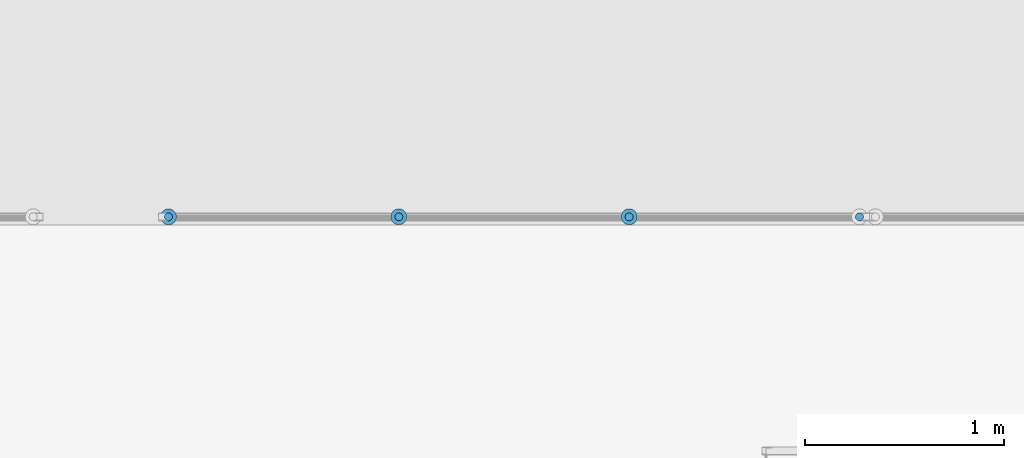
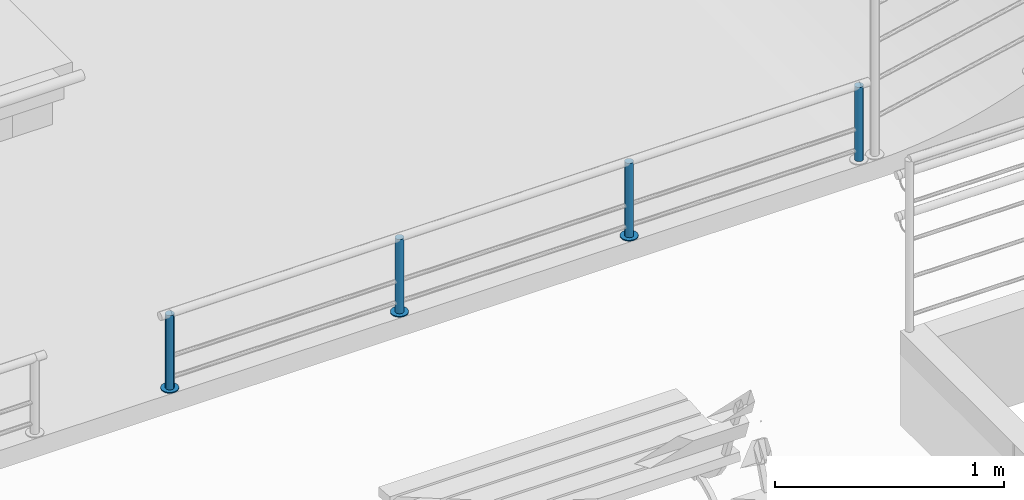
# One storey, part 111 of 237: 7 building element parts, 1 element without a shape of its own.
"""IFC2X3 building model written with IfcOpenShell, lengths in millimetres."""

from ifc_helpers import new_model, entity, si_unit, converted_unit, derived_unit, money_unit, direction, frame, origin_with_axes, place, context, subcontext, project, spatial, faceted_brep, material, type_object, element, aggregate, save


model = new_model("IFC2X3")

# Units and contexts
model_context = context("Model", 3, precision=0.01, world=origin_with_axes(), true_north=direction((0.0, 1.0)))
body_context = subcontext(model_context, "Body", "Model", "MODEL_VIEW")
ifc_project = project(units=[si_unit("LENGTHUNIT", "METRE", prefix="MILLI"), si_unit("AREAUNIT", "SQUARE_METRE"), si_unit("VOLUMEUNIT", "CUBIC_METRE"), converted_unit("PLANEANGLEUNIT", "DEGREE", entity("IfcPlaneAngleMeasure", 0.0174532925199), si_unit("PLANEANGLEUNIT", "RADIAN"), dimensions=[0, 0, 0, 0, 0, 0, 0]), money_unit("USD"), converted_unit("TIMEUNIT", "Year", entity("IfcTimeMeasure", 31556926.0), si_unit("TIMEUNIT", "SECOND"), dimensions=[0, 0, 1, 0, 0, 0, 0]), si_unit("MASSUNIT", "GRAM", prefix="KILO"), si_unit("THERMODYNAMICTEMPERATUREUNIT", "DEGREE_CELSIUS"), si_unit("LUMINOUSINTENSITYUNIT", "LUMEN"), si_unit("ENERGYUNIT", "JOULE", prefix="MEGA"), derived_unit("THERMALCONDUCTANCEUNIT", [(si_unit("POWERUNIT", "WATT"), 1), (si_unit("LENGTHUNIT", "METRE"), -1), (si_unit("THERMODYNAMICTEMPERATUREUNIT", "KELVIN"), -1)]), derived_unit("SPECIFICHEATCAPACITYUNIT", [(si_unit("ENERGYUNIT", "JOULE"), 1), (si_unit("MASSUNIT", "GRAM", prefix="KILO"), -1), (si_unit("THERMODYNAMICTEMPERATUREUNIT", "KELVIN"), -1)]), derived_unit("MASSDENSITYUNIT", [(si_unit("MASSUNIT", "GRAM", prefix="KILO"), 1), (si_unit("VOLUMEUNIT", "CUBIC_METRE"), -1)])], contexts=[model_context])

# Site, building, storey
site_placement = place(None, origin_with_axes())
site = spatial("IfcSite", under=ifc_project, at=site_placement, Name="Local", CompositionType="ELEMENT")
building_placement = place(site_placement, origin_with_axes())
building = spatial("IfcBuilding", under=site, at=building_placement, Name="Construção", CompositionType="ELEMENT")
storey_placement = place(building_placement, origin_with_axes())
storey = spatial("IfcBuildingStorey", under=building, at=storey_placement, Name="Pavimento Térreo", CompositionType="ELEMENT", Elevation=0.0)

# Railing, building element parts
railing_type = type_object("IfcRailingType", Name="Tipo de Guarda-Corpo", PredefinedType="NOTDEFINED")
railing_placement = place(storey_placement, frame((58062.4440926, 28006.4497128, -1887.10818411), z_axis=(0.0, 0.0, 1.0), x_axis=(1.0, 0.0, 0.0)))
railing = element("IfcRailing", 1, at=railing_placement, inside=storey, type_object=railing_type, Name="Guarda-Corpo - 002", PredefinedType="NOTDEFINED")
ifc_material_1 = material(Name="Aço - Inoxidável")
building_element_part_1_placement = place(railing_placement, origin_with_axes())
building_element_part_1 = element("IfcBuildingElementPart", 2, at=building_element_part_1_placement, material=ifc_material_1, Name="Aço - Inoxidável", context=body_context, shape_type="Brep", body=[
    faceted_brep([(36.5270364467, 58.7903860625, 635.0), (40.0, 58.4865411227, 635.0), (40.0, 58.4865411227, 1030.0), (36.5270364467, 58.7903860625, 1030.0), (43.4729635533, 58.7903860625, 635.0), (33.1595971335, 59.692688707, 635.0), (30.0, 61.166033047, 635.0), (27.1442478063, 63.1656522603, 635.0), (24.6791111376, 65.630788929, 635.0), (22.6794919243, 68.4865411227, 635.0), (21.2061475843, 71.6461382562, 635.0), (20.3038449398, 75.0135775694, 635.0), (20.0, 78.4865411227, 635.0), (20.3038449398, 81.9595046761, 635.0), (21.2061475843, 85.3269439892, 635.0), (22.6794919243, 88.4865411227, 635.0), (24.6791111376, 91.3422933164, 635.0), (27.1442478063, 93.8074299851, 635.0), (30.0, 95.8070491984, 635.0), (33.1595971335, 97.2803935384, 635.0), (36.5270364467, 98.182696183, 635.0), (40.0, 98.4865411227, 635.0), (43.4729635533, 98.182696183, 635.0), (46.8404028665, 97.2803935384, 635.0), (50.0, 95.8070491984, 635.0), (52.8557521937, 93.8074299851, 635.0), (55.3208888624, 91.3422933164, 635.0), (57.3205080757, 88.4865411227, 635.0), (58.7938524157, 85.3269439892, 635.0), (59.6961550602, 81.9595046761, 635.0), (60.0, 78.4865411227, 635.0), (59.6961550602, 75.0135775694, 635.0), (58.7938524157, 71.6461382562, 635.0), (57.3205080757, 68.4865411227, 635.0), (55.3208888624, 65.630788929, 635.0), (52.8557521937, 63.1656522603, 635.0), (50.0, 61.166033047, 635.0), (46.8404028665, 59.692688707, 635.0), (43.4729635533, 58.7903860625, 1030.0), (20.3038449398, 81.9595046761, 1030.0), (20.0, 78.4865411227, 1030.0), (20.3038449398, 75.0135775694, 1030.0), (21.2061475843, 71.6461382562, 1030.0), (22.6794919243, 68.4865411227, 1030.0), (24.6791111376, 65.630788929, 1030.0), (27.1442478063, 63.1656522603, 1030.0), (30.0, 61.166033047, 1030.0), (33.1595971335, 59.692688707, 1030.0), (46.8404028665, 59.692688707, 1030.0), (50.0, 61.166033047, 1030.0), (52.8557521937, 63.1656522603, 1030.0), (55.3208888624, 65.630788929, 1030.0), (57.3205080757, 68.4865411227, 1030.0), (58.7938524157, 71.6461382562, 1030.0), (59.6961550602, 75.0135775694, 1030.0), (60.0, 78.4865411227, 1030.0), (59.6961550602, 81.9595046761, 1030.0), (58.7938524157, 85.3269439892, 1030.0), (57.3205080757, 88.4865411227, 1030.0), (55.3208888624, 91.3422933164, 1030.0), (52.8557521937, 93.8074299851, 1030.0), (50.0, 95.8070491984, 1030.0), (46.8404028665, 97.2803935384, 1030.0), (43.4729635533, 98.182696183, 1030.0), (40.0, 98.4865411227, 1030.0), (36.5270364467, 98.182696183, 1030.0), (33.1595971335, 97.2803935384, 1030.0), (30.0, 95.8070491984, 1030.0), (27.1442478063, 93.8074299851, 1030.0), (24.6791111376, 91.3422933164, 1030.0), (22.6794919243, 88.4865411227, 1030.0), (21.2061475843, 85.3269439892, 1030.0)], [[[0, 1, 2, 3]], [[4, 1, 0, 5, 6, 7, 8, 9, 10, 11, 12, 13, 14, 15, 16, 17, 18, 19, 20, 21, 22, 23, 24, 25, 26, 27, 28, 29, 30, 31, 32, 33, 34, 35, 36, 37]], [[1, 4, 38, 2]], [[39, 40, 41, 42, 43, 44, 45, 46, 47, 3, 2, 38, 48, 49, 50, 51, 52, 53, 54, 55, 56, 57, 58, 59, 60, 61, 62, 63, 64, 65, 66, 67, 68, 69, 70, 71]], [[5, 0, 3, 47]], [[6, 5, 47, 46]], [[7, 6, 46, 45]], [[8, 7, 45, 44]], [[9, 8, 44, 43]], [[10, 9, 43, 42]], [[11, 10, 42, 41]], [[12, 11, 41, 40]], [[13, 12, 40, 39]], [[14, 13, 39, 71]], [[15, 14, 71, 70]], [[16, 15, 70, 69]], [[17, 16, 69, 68]], [[18, 17, 68, 67]], [[19, 18, 67, 66]], [[20, 19, 66, 65]], [[21, 20, 65, 64]], [[22, 21, 64, 63]], [[23, 22, 63, 62]], [[24, 23, 62, 61]], [[25, 24, 61, 60]], [[26, 25, 60, 59]], [[27, 26, 59, 58]], [[28, 27, 58, 57]], [[29, 28, 57, 56]], [[30, 29, 56, 55]], [[31, 30, 55, 54]], [[32, 31, 54, 53]], [[33, 32, 53, 52]], [[34, 33, 52, 51]], [[35, 34, 51, 50]], [[36, 35, 50, 49]], [[37, 36, 49, 48]], [[4, 37, 48, 38]]]),
])
ifc_material_2 = material(Name="Alumínio")
building_element_part_2_placement = place(railing_placement, origin_with_axes())
building_element_part_2 = element("IfcBuildingElementPart", 3, at=building_element_part_2_placement, material=ifc_material_2, Name="Alumínio", context=body_context, shape_type="Brep", body=[
    faceted_brep([(80.0, 78.4865411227, 630.0), (79.3923101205, 85.4324682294, 630.0), (79.3923101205, 85.4324682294, 635.0), (80.0, 78.4865411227, 635.0), (79.3923101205, 71.540614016, 630.0), (77.5877048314, 64.8057353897, 630.0), (74.6410161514, 58.4865411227, 630.0), (70.6417777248, 52.7750367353, 630.0), (65.7115043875, 47.844763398, 630.0), (60.0, 43.8455249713, 630.0), (53.680805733, 40.8988362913, 630.0), (46.9459271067, 39.0942310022, 630.0), (40.0, 38.4865411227, 630.0), (33.0540728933, 39.0942310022, 630.0), (26.319194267, 40.8988362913, 630.0), (20.0, 43.8455249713, 630.0), (14.2884956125, 47.844763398, 630.0), (9.35822227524, 52.7750367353, 630.0), (5.35898384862, 58.4865411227, 630.0), (2.41229516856, 64.8057353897, 630.0), (0.607689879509, 71.540614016, 630.0), (0.0, 78.4865411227, 630.0), (0.607689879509, 85.4324682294, 630.0), (2.41229516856, 92.1673468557, 630.0), (5.35898384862, 98.4865411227, 630.0), (9.35822227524, 104.19804551, 630.0), (14.2884956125, 109.128318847, 630.0), (20.0, 113.127557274, 630.0), (26.319194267, 116.074245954, 630.0), (33.0540728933, 117.878851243, 630.0), (40.0, 118.486541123, 630.0), (46.9459271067, 117.878851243, 630.0), (53.680805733, 116.074245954, 630.0), (60.0, 113.127557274, 630.0), (65.7115043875, 109.128318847, 630.0), (70.6417777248, 104.19804551, 630.0), (74.6410161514, 98.4865411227, 630.0), (77.5877048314, 92.1673468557, 630.0), (77.5877048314, 92.1673468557, 635.0), (74.6410161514, 98.4865411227, 635.0), (70.6417777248, 104.19804551, 635.0), (65.7115043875, 109.128318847, 635.0), (60.0, 113.127557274, 635.0), (53.680805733, 116.074245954, 635.0), (46.9459271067, 117.878851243, 635.0), (40.0, 118.486541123, 635.0), (33.0540728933, 117.878851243, 635.0), (26.319194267, 116.074245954, 635.0), (20.0, 113.127557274, 635.0), (14.2884956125, 109.128318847, 635.0), (9.35822227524, 104.19804551, 635.0), (5.35898384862, 98.4865411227, 635.0), (2.41229516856, 92.1673468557, 635.0), (0.607689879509, 85.4324682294, 635.0), (0.0, 78.4865411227, 635.0), (0.607689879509, 71.540614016, 635.0), (2.41229516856, 64.8057353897, 635.0), (5.35898384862, 58.4865411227, 635.0), (9.35822227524, 52.7750367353, 635.0), (14.2884956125, 47.844763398, 635.0), (20.0, 43.8455249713, 635.0), (26.319194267, 40.8988362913, 635.0), (33.0540728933, 39.0942310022, 635.0), (40.0, 38.4865411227, 635.0), (46.9459271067, 39.0942310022, 635.0), (53.680805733, 40.8988362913, 635.0), (60.0, 43.8455249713, 635.0), (65.7115043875, 47.844763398, 635.0), (70.6417777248, 52.7750367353, 635.0), (74.6410161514, 58.4865411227, 635.0), (77.5877048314, 64.8057353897, 635.0), (79.3923101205, 71.540614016, 635.0)], [[[0, 1, 2, 3]], [[0, 4, 5, 6, 7, 8, 9, 10, 11, 12, 13, 14, 15, 16, 17, 18, 19, 20, 21, 22, 23, 24, 25, 26, 27, 28, 29, 30, 31, 32, 33, 34, 35, 36, 37, 1]], [[1, 37, 38, 2]], [[3, 2, 38, 39, 40, 41, 42, 43, 44, 45, 46, 47, 48, 49, 50, 51, 52, 53, 54, 55, 56, 57, 58, 59, 60, 61, 62, 63, 64, 65, 66, 67, 68, 69, 70, 71]], [[4, 0, 3, 71]], [[5, 4, 71, 70]], [[6, 5, 70, 69]], [[7, 6, 69, 68]], [[8, 7, 68, 67]], [[9, 8, 67, 66]], [[10, 9, 66, 65]], [[11, 10, 65, 64]], [[12, 11, 64, 63]], [[13, 12, 63, 62]], [[14, 13, 62, 61]], [[15, 14, 61, 60]], [[16, 15, 60, 59]], [[17, 16, 59, 58]], [[18, 17, 58, 57]], [[19, 18, 57, 56]], [[20, 19, 56, 55]], [[21, 20, 55, 54]], [[22, 21, 54, 53]], [[23, 22, 53, 52]], [[24, 23, 52, 51]], [[25, 24, 51, 50]], [[26, 25, 50, 49]], [[27, 26, 49, 48]], [[28, 27, 48, 47]], [[29, 28, 47, 46]], [[30, 29, 46, 45]], [[31, 30, 45, 44]], [[32, 31, 44, 43]], [[33, 32, 43, 42]], [[34, 33, 42, 41]], [[35, 34, 41, 40]], [[36, 35, 40, 39]], [[37, 36, 39, 38]]]),
])
building_element_part_3_placement = place(railing_placement, origin_with_axes())
building_element_part_3 = element("IfcBuildingElementPart", 4, at=building_element_part_3_placement, material=ifc_material_1, Name="Aço - Inoxidável", context=body_context, shape_type="Brep", body=[
    faceted_brep([(3506.52703645, 58.7903860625, 635.0), (3510.0, 58.4865411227, 635.0), (3510.0, 58.4865411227, 1030.0), (3506.52703645, 58.7903860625, 1030.0), (3513.47296355, 58.7903860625, 635.0), (3503.15959713, 59.692688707, 635.0), (3500.0, 61.166033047, 635.0), (3497.14424781, 63.1656522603, 635.0), (3494.67911114, 65.630788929, 635.0), (3492.67949192, 68.4865411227, 635.0), (3491.20614758, 71.6461382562, 635.0), (3490.30384494, 75.0135775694, 635.0), (3490.0, 78.4865411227, 635.0), (3490.30384494, 81.9595046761, 635.0), (3491.20614758, 85.3269439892, 635.0), (3492.67949192, 88.4865411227, 635.0), (3494.67911114, 91.3422933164, 635.0), (3497.14424781, 93.8074299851, 635.0), (3500.0, 95.8070491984, 635.0), (3503.15959713, 97.2803935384, 635.0), (3506.52703645, 98.182696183, 635.0), (3510.0, 98.4865411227, 635.0), (3513.47296355, 98.182696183, 635.0), (3516.84040287, 97.2803935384, 635.0), (3520.0, 95.8070491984, 635.0), (3522.85575219, 93.8074299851, 635.0), (3525.32088886, 91.3422933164, 635.0), (3527.32050808, 88.4865411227, 635.0), (3528.79385242, 85.3269439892, 635.0), (3529.69615506, 81.9595046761, 635.0), (3530.0, 78.4865411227, 635.0), (3529.69615506, 75.0135775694, 635.0), (3528.79385242, 71.6461382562, 635.0), (3527.32050808, 68.4865411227, 635.0), (3525.32088886, 65.630788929, 635.0), (3522.85575219, 63.1656522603, 635.0), (3520.0, 61.166033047, 635.0), (3516.84040287, 59.692688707, 635.0), (3513.47296355, 58.7903860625, 1030.0), (3490.30384494, 81.9595046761, 1030.0), (3490.0, 78.4865411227, 1030.0), (3490.30384494, 75.0135775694, 1030.0), (3491.20614758, 71.6461382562, 1030.0), (3492.67949192, 68.4865411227, 1030.0), (3494.67911114, 65.630788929, 1030.0), (3497.14424781, 63.1656522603, 1030.0), (3500.0, 61.166033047, 1030.0), (3503.15959713, 59.692688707, 1030.0), (3516.84040287, 59.692688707, 1030.0), (3520.0, 61.166033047, 1030.0), (3522.85575219, 63.1656522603, 1030.0), (3525.32088886, 65.630788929, 1030.0), (3527.32050808, 68.4865411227, 1030.0), (3528.79385242, 71.6461382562, 1030.0), (3529.69615506, 75.0135775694, 1030.0), (3530.0, 78.4865411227, 1030.0), (3529.69615506, 81.9595046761, 1030.0), (3528.79385242, 85.3269439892, 1030.0), (3527.32050808, 88.4865411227, 1030.0), (3525.32088886, 91.3422933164, 1030.0), (3522.85575219, 93.8074299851, 1030.0), (3520.0, 95.8070491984, 1030.0), (3516.84040287, 97.2803935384, 1030.0), (3513.47296355, 98.182696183, 1030.0), (3510.0, 98.4865411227, 1030.0), (3506.52703645, 98.182696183, 1030.0), (3503.15959713, 97.2803935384, 1030.0), (3500.0, 95.8070491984, 1030.0), (3497.14424781, 93.8074299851, 1030.0), (3494.67911114, 91.3422933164, 1030.0), (3492.67949192, 88.4865411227, 1030.0), (3491.20614758, 85.3269439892, 1030.0)], [[[0, 1, 2, 3]], [[4, 1, 0, 5, 6, 7, 8, 9, 10, 11, 12, 13, 14, 15, 16, 17, 18, 19, 20, 21, 22, 23, 24, 25, 26, 27, 28, 29, 30, 31, 32, 33, 34, 35, 36, 37]], [[1, 4, 38, 2]], [[39, 40, 41, 42, 43, 44, 45, 46, 47, 3, 2, 38, 48, 49, 50, 51, 52, 53, 54, 55, 56, 57, 58, 59, 60, 61, 62, 63, 64, 65, 66, 67, 68, 69, 70, 71]], [[5, 0, 3, 47]], [[6, 5, 47, 46]], [[7, 6, 46, 45]], [[8, 7, 45, 44]], [[9, 8, 44, 43]], [[10, 9, 43, 42]], [[11, 10, 42, 41]], [[12, 11, 41, 40]], [[13, 12, 40, 39]], [[14, 13, 39, 71]], [[15, 14, 71, 70]], [[16, 15, 70, 69]], [[17, 16, 69, 68]], [[18, 17, 68, 67]], [[19, 18, 67, 66]], [[20, 19, 66, 65]], [[21, 20, 65, 64]], [[22, 21, 64, 63]], [[23, 22, 63, 62]], [[24, 23, 62, 61]], [[25, 24, 61, 60]], [[26, 25, 60, 59]], [[27, 26, 59, 58]], [[28, 27, 58, 57]], [[29, 28, 57, 56]], [[30, 29, 56, 55]], [[31, 30, 55, 54]], [[32, 31, 54, 53]], [[33, 32, 53, 52]], [[34, 33, 52, 51]], [[35, 34, 51, 50]], [[36, 35, 50, 49]], [[37, 36, 49, 48]], [[4, 37, 48, 38]]]),
])
building_element_part_4_placement = place(railing_placement, origin_with_axes())
building_element_part_4 = element("IfcBuildingElementPart", 5, at=building_element_part_4_placement, material=ifc_material_1, Name="Aço - Inoxidável", context=body_context, shape_type="Brep", body=[
    faceted_brep([(1193.19370311, 58.7903860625, 635.0), (1196.66666667, 58.4865411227, 635.0), (1196.66666667, 58.4865411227, 1030.0), (1193.19370311, 58.7903860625, 1030.0), (1200.13963022, 58.7903860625, 635.0), (1189.8262638, 59.692688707, 635.0), (1186.66666667, 61.166033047, 635.0), (1183.81091447, 63.1656522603, 635.0), (1181.3457778, 65.630788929, 635.0), (1179.34615859, 68.4865411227, 635.0), (1177.87281425, 71.6461382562, 635.0), (1176.97051161, 75.0135775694, 635.0), (1176.66666667, 78.4865411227, 635.0), (1176.97051161, 81.9595046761, 635.0), (1177.87281425, 85.3269439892, 635.0), (1179.34615859, 88.4865411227, 635.0), (1181.3457778, 91.3422933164, 635.0), (1183.81091447, 93.8074299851, 635.0), (1186.66666667, 95.8070491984, 635.0), (1189.8262638, 97.2803935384, 635.0), (1193.19370311, 98.182696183, 635.0), (1196.66666667, 98.4865411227, 635.0), (1200.13963022, 98.182696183, 635.0), (1203.50706953, 97.2803935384, 635.0), (1206.66666667, 95.8070491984, 635.0), (1209.52241886, 93.8074299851, 635.0), (1211.98755553, 91.3422933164, 635.0), (1213.98717474, 88.4865411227, 635.0), (1215.46051908, 85.3269439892, 635.0), (1216.36282173, 81.9595046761, 635.0), (1216.66666667, 78.4865411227, 635.0), (1216.36282173, 75.0135775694, 635.0), (1215.46051908, 71.6461382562, 635.0), (1213.98717474, 68.4865411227, 635.0), (1211.98755553, 65.630788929, 635.0), (1209.52241886, 63.1656522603, 635.0), (1206.66666667, 61.166033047, 635.0), (1203.50706953, 59.692688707, 635.0), (1200.13963022, 58.7903860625, 1030.0), (1176.97051161, 81.9595046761, 1030.0), (1176.66666667, 78.4865411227, 1030.0), (1176.97051161, 75.0135775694, 1030.0), (1177.87281425, 71.6461382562, 1030.0), (1179.34615859, 68.4865411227, 1030.0), (1181.3457778, 65.630788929, 1030.0), (1183.81091447, 63.1656522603, 1030.0), (1186.66666667, 61.166033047, 1030.0), (1189.8262638, 59.692688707, 1030.0), (1203.50706953, 59.692688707, 1030.0), (1206.66666667, 61.166033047, 1030.0), (1209.52241886, 63.1656522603, 1030.0), (1211.98755553, 65.630788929, 1030.0), (1213.98717474, 68.4865411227, 1030.0), (1215.46051908, 71.6461382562, 1030.0), (1216.36282173, 75.0135775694, 1030.0), (1216.66666667, 78.4865411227, 1030.0), (1216.36282173, 81.9595046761, 1030.0), (1215.46051908, 85.3269439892, 1030.0), (1213.98717474, 88.4865411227, 1030.0), (1211.98755553, 91.3422933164, 1030.0), (1209.52241886, 93.8074299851, 1030.0), (1206.66666667, 95.8070491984, 1030.0), (1203.50706953, 97.2803935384, 1030.0), (1200.13963022, 98.182696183, 1030.0), (1196.66666667, 98.4865411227, 1030.0), (1193.19370311, 98.182696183, 1030.0), (1189.8262638, 97.2803935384, 1030.0), (1186.66666667, 95.8070491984, 1030.0), (1183.81091447, 93.8074299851, 1030.0), (1181.3457778, 91.3422933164, 1030.0), (1179.34615859, 88.4865411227, 1030.0), (1177.87281425, 85.3269439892, 1030.0)], [[[0, 1, 2, 3]], [[4, 1, 0, 5, 6, 7, 8, 9, 10, 11, 12, 13, 14, 15, 16, 17, 18, 19, 20, 21, 22, 23, 24, 25, 26, 27, 28, 29, 30, 31, 32, 33, 34, 35, 36, 37]], [[1, 4, 38, 2]], [[39, 40, 41, 42, 43, 44, 45, 46, 47, 3, 2, 38, 48, 49, 50, 51, 52, 53, 54, 55, 56, 57, 58, 59, 60, 61, 62, 63, 64, 65, 66, 67, 68, 69, 70, 71]], [[5, 0, 3, 47]], [[6, 5, 47, 46]], [[7, 6, 46, 45]], [[8, 7, 45, 44]], [[9, 8, 44, 43]], [[10, 9, 43, 42]], [[11, 10, 42, 41]], [[12, 11, 41, 40]], [[13, 12, 40, 39]], [[14, 13, 39, 71]], [[15, 14, 71, 70]], [[16, 15, 70, 69]], [[17, 16, 69, 68]], [[18, 17, 68, 67]], [[19, 18, 67, 66]], [[20, 19, 66, 65]], [[21, 20, 65, 64]], [[22, 21, 64, 63]], [[23, 22, 63, 62]], [[24, 23, 62, 61]], [[25, 24, 61, 60]], [[26, 25, 60, 59]], [[27, 26, 59, 58]], [[28, 27, 58, 57]], [[29, 28, 57, 56]], [[30, 29, 56, 55]], [[31, 30, 55, 54]], [[32, 31, 54, 53]], [[33, 32, 53, 52]], [[34, 33, 52, 51]], [[35, 34, 51, 50]], [[36, 35, 50, 49]], [[37, 36, 49, 48]], [[4, 37, 48, 38]]]),
])
building_element_part_5_placement = place(railing_placement, origin_with_axes())
building_element_part_5 = element("IfcBuildingElementPart", 6, at=building_element_part_5_placement, material=ifc_material_2, Name="Alumínio", context=body_context, shape_type="Brep", body=[
    faceted_brep([(1236.66666667, 78.4865411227, 630.0), (1236.05897679, 85.4324682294, 630.0), (1236.05897679, 85.4324682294, 635.0), (1236.66666667, 78.4865411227, 635.0), (1236.05897679, 71.540614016, 630.0), (1234.2543715, 64.8057353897, 630.0), (1231.30768282, 58.4865411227, 630.0), (1227.30844439, 52.7750367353, 630.0), (1222.37817105, 47.844763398, 630.0), (1216.66666667, 43.8455249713, 630.0), (1210.3474724, 40.8988362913, 630.0), (1203.61259377, 39.0942310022, 630.0), (1196.66666667, 38.4865411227, 630.0), (1189.72073956, 39.0942310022, 630.0), (1182.98586093, 40.8988362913, 630.0), (1176.66666667, 43.8455249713, 630.0), (1170.95516228, 47.844763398, 630.0), (1166.02488894, 52.7750367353, 630.0), (1162.02565052, 58.4865411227, 630.0), (1159.07896184, 64.8057353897, 630.0), (1157.27435655, 71.540614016, 630.0), (1156.66666667, 78.4865411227, 630.0), (1157.27435655, 85.4324682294, 630.0), (1159.07896184, 92.1673468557, 630.0), (1162.02565052, 98.4865411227, 630.0), (1166.02488894, 104.19804551, 630.0), (1170.95516228, 109.128318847, 630.0), (1176.66666667, 113.127557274, 630.0), (1182.98586093, 116.074245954, 630.0), (1189.72073956, 117.878851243, 630.0), (1196.66666667, 118.486541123, 630.0), (1203.61259377, 117.878851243, 630.0), (1210.3474724, 116.074245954, 630.0), (1216.66666667, 113.127557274, 630.0), (1222.37817105, 109.128318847, 630.0), (1227.30844439, 104.19804551, 630.0), (1231.30768282, 98.4865411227, 630.0), (1234.2543715, 92.1673468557, 630.0), (1234.2543715, 92.1673468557, 635.0), (1231.30768282, 98.4865411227, 635.0), (1227.30844439, 104.19804551, 635.0), (1222.37817105, 109.128318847, 635.0), (1216.66666667, 113.127557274, 635.0), (1210.3474724, 116.074245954, 635.0), (1203.61259377, 117.878851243, 635.0), (1196.66666667, 118.486541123, 635.0), (1189.72073956, 117.878851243, 635.0), (1182.98586093, 116.074245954, 635.0), (1176.66666667, 113.127557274, 635.0), (1170.95516228, 109.128318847, 635.0), (1166.02488894, 104.19804551, 635.0), (1162.02565052, 98.4865411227, 635.0), (1159.07896184, 92.1673468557, 635.0), (1157.27435655, 85.4324682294, 635.0), (1156.66666667, 78.4865411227, 635.0), (1157.27435655, 71.540614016, 635.0), (1159.07896184, 64.8057353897, 635.0), (1162.02565052, 58.4865411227, 635.0), (1166.02488894, 52.7750367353, 635.0), (1170.95516228, 47.844763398, 635.0), (1176.66666667, 43.8455249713, 635.0), (1182.98586093, 40.8988362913, 635.0), (1189.72073956, 39.0942310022, 635.0), (1196.66666667, 38.4865411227, 635.0), (1203.61259377, 39.0942310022, 635.0), (1210.3474724, 40.8988362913, 635.0), (1216.66666667, 43.8455249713, 635.0), (1222.37817105, 47.844763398, 635.0), (1227.30844439, 52.7750367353, 635.0), (1231.30768282, 58.4865411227, 635.0), (1234.2543715, 64.8057353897, 635.0), (1236.05897679, 71.540614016, 635.0)], [[[0, 1, 2, 3]], [[0, 4, 5, 6, 7, 8, 9, 10, 11, 12, 13, 14, 15, 16, 17, 18, 19, 20, 21, 22, 23, 24, 25, 26, 27, 28, 29, 30, 31, 32, 33, 34, 35, 36, 37, 1]], [[1, 37, 38, 2]], [[3, 2, 38, 39, 40, 41, 42, 43, 44, 45, 46, 47, 48, 49, 50, 51, 52, 53, 54, 55, 56, 57, 58, 59, 60, 61, 62, 63, 64, 65, 66, 67, 68, 69, 70, 71]], [[4, 0, 3, 71]], [[5, 4, 71, 70]], [[6, 5, 70, 69]], [[7, 6, 69, 68]], [[8, 7, 68, 67]], [[9, 8, 67, 66]], [[10, 9, 66, 65]], [[11, 10, 65, 64]], [[12, 11, 64, 63]], [[13, 12, 63, 62]], [[14, 13, 62, 61]], [[15, 14, 61, 60]], [[16, 15, 60, 59]], [[17, 16, 59, 58]], [[18, 17, 58, 57]], [[19, 18, 57, 56]], [[20, 19, 56, 55]], [[21, 20, 55, 54]], [[22, 21, 54, 53]], [[23, 22, 53, 52]], [[24, 23, 52, 51]], [[25, 24, 51, 50]], [[26, 25, 50, 49]], [[27, 26, 49, 48]], [[28, 27, 48, 47]], [[29, 28, 47, 46]], [[30, 29, 46, 45]], [[31, 30, 45, 44]], [[32, 31, 44, 43]], [[33, 32, 43, 42]], [[34, 33, 42, 41]], [[35, 34, 41, 40]], [[36, 35, 40, 39]], [[37, 36, 39, 38]]]),
])
building_element_part_6_placement = place(railing_placement, origin_with_axes())
building_element_part_6 = element("IfcBuildingElementPart", 7, at=building_element_part_6_placement, material=ifc_material_1, Name="Aço - Inoxidável", context=body_context, shape_type="Brep", body=[
    faceted_brep([(2349.86036978, 58.7903860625, 635.0), (2353.33333333, 58.4865411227, 635.0), (2353.33333333, 58.4865411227, 1030.0), (2349.86036978, 58.7903860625, 1030.0), (2356.80629689, 58.7903860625, 635.0), (2346.49293047, 59.692688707, 635.0), (2343.33333333, 61.166033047, 635.0), (2340.47758114, 63.1656522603, 635.0), (2338.01244447, 65.630788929, 635.0), (2336.01282526, 68.4865411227, 635.0), (2334.53948092, 71.6461382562, 635.0), (2333.63717827, 75.0135775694, 635.0), (2333.33333333, 78.4865411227, 635.0), (2333.63717827, 81.9595046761, 635.0), (2334.53948092, 85.3269439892, 635.0), (2336.01282526, 88.4865411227, 635.0), (2338.01244447, 91.3422933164, 635.0), (2340.47758114, 93.8074299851, 635.0), (2343.33333333, 95.8070491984, 635.0), (2346.49293047, 97.2803935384, 635.0), (2349.86036978, 98.182696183, 635.0), (2353.33333333, 98.4865411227, 635.0), (2356.80629689, 98.182696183, 635.0), (2360.1737362, 97.2803935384, 635.0), (2363.33333333, 95.8070491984, 635.0), (2366.18908553, 93.8074299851, 635.0), (2368.6542222, 91.3422933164, 635.0), (2370.65384141, 88.4865411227, 635.0), (2372.12718575, 85.3269439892, 635.0), (2373.02948839, 81.9595046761, 635.0), (2373.33333333, 78.4865411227, 635.0), (2373.02948839, 75.0135775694, 635.0), (2372.12718575, 71.6461382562, 635.0), (2370.65384141, 68.4865411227, 635.0), (2368.6542222, 65.630788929, 635.0), (2366.18908553, 63.1656522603, 635.0), (2363.33333333, 61.166033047, 635.0), (2360.1737362, 59.692688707, 635.0), (2356.80629689, 58.7903860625, 1030.0), (2333.63717827, 81.9595046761, 1030.0), (2333.33333333, 78.4865411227, 1030.0), (2333.63717827, 75.0135775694, 1030.0), (2334.53948092, 71.6461382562, 1030.0), (2336.01282526, 68.4865411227, 1030.0), (2338.01244447, 65.630788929, 1030.0), (2340.47758114, 63.1656522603, 1030.0), (2343.33333333, 61.166033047, 1030.0), (2346.49293047, 59.692688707, 1030.0), (2360.1737362, 59.692688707, 1030.0), (2363.33333333, 61.166033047, 1030.0), (2366.18908553, 63.1656522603, 1030.0), (2368.6542222, 65.630788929, 1030.0), (2370.65384141, 68.4865411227, 1030.0), (2372.12718575, 71.6461382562, 1030.0), (2373.02948839, 75.0135775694, 1030.0), (2373.33333333, 78.4865411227, 1030.0), (2373.02948839, 81.9595046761, 1030.0), (2372.12718575, 85.3269439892, 1030.0), (2370.65384141, 88.4865411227, 1030.0), (2368.6542222, 91.3422933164, 1030.0), (2366.18908553, 93.8074299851, 1030.0), (2363.33333333, 95.8070491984, 1030.0), (2360.1737362, 97.2803935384, 1030.0), (2356.80629689, 98.182696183, 1030.0), (2353.33333333, 98.4865411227, 1030.0), (2349.86036978, 98.182696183, 1030.0), (2346.49293047, 97.2803935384, 1030.0), (2343.33333333, 95.8070491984, 1030.0), (2340.47758114, 93.8074299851, 1030.0), (2338.01244447, 91.3422933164, 1030.0), (2336.01282526, 88.4865411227, 1030.0), (2334.53948092, 85.3269439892, 1030.0)], [[[0, 1, 2, 3]], [[4, 1, 0, 5, 6, 7, 8, 9, 10, 11, 12, 13, 14, 15, 16, 17, 18, 19, 20, 21, 22, 23, 24, 25, 26, 27, 28, 29, 30, 31, 32, 33, 34, 35, 36, 37]], [[1, 4, 38, 2]], [[39, 40, 41, 42, 43, 44, 45, 46, 47, 3, 2, 38, 48, 49, 50, 51, 52, 53, 54, 55, 56, 57, 58, 59, 60, 61, 62, 63, 64, 65, 66, 67, 68, 69, 70, 71]], [[5, 0, 3, 47]], [[6, 5, 47, 46]], [[7, 6, 46, 45]], [[8, 7, 45, 44]], [[9, 8, 44, 43]], [[10, 9, 43, 42]], [[11, 10, 42, 41]], [[12, 11, 41, 40]], [[13, 12, 40, 39]], [[14, 13, 39, 71]], [[15, 14, 71, 70]], [[16, 15, 70, 69]], [[17, 16, 69, 68]], [[18, 17, 68, 67]], [[19, 18, 67, 66]], [[20, 19, 66, 65]], [[21, 20, 65, 64]], [[22, 21, 64, 63]], [[23, 22, 63, 62]], [[24, 23, 62, 61]], [[25, 24, 61, 60]], [[26, 25, 60, 59]], [[27, 26, 59, 58]], [[28, 27, 58, 57]], [[29, 28, 57, 56]], [[30, 29, 56, 55]], [[31, 30, 55, 54]], [[32, 31, 54, 53]], [[33, 32, 53, 52]], [[34, 33, 52, 51]], [[35, 34, 51, 50]], [[36, 35, 50, 49]], [[37, 36, 49, 48]], [[4, 37, 48, 38]]]),
])
building_element_part_7_placement = place(railing_placement, origin_with_axes())
building_element_part_7 = element("IfcBuildingElementPart", 8, at=building_element_part_7_placement, material=ifc_material_2, Name="Alumínio", context=body_context, shape_type="Brep", body=[
    faceted_brep([(2393.33333333, 78.4865411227, 630.0), (2392.72564345, 85.4324682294, 630.0), (2392.72564345, 85.4324682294, 635.0), (2393.33333333, 78.4865411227, 635.0), (2392.72564345, 71.540614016, 630.0), (2390.92103816, 64.8057353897, 630.0), (2387.97434948, 58.4865411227, 630.0), (2383.97511106, 52.7750367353, 630.0), (2379.04483772, 47.844763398, 630.0), (2373.33333333, 43.8455249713, 630.0), (2367.01413907, 40.8988362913, 630.0), (2360.27926044, 39.0942310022, 630.0), (2353.33333333, 38.4865411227, 630.0), (2346.38740623, 39.0942310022, 630.0), (2339.6525276, 40.8988362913, 630.0), (2333.33333333, 43.8455249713, 630.0), (2327.62182895, 47.844763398, 630.0), (2322.69155561, 52.7750367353, 630.0), (2318.69231718, 58.4865411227, 630.0), (2315.7456285, 64.8057353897, 630.0), (2313.94102321, 71.540614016, 630.0), (2313.33333333, 78.4865411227, 630.0), (2313.94102321, 85.4324682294, 630.0), (2315.7456285, 92.1673468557, 630.0), (2318.69231718, 98.4865411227, 630.0), (2322.69155561, 104.19804551, 630.0), (2327.62182895, 109.128318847, 630.0), (2333.33333333, 113.127557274, 630.0), (2339.6525276, 116.074245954, 630.0), (2346.38740623, 117.878851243, 630.0), (2353.33333333, 118.486541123, 630.0), (2360.27926044, 117.878851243, 630.0), (2367.01413907, 116.074245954, 630.0), (2373.33333333, 113.127557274, 630.0), (2379.04483772, 109.128318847, 630.0), (2383.97511106, 104.19804551, 630.0), (2387.97434948, 98.4865411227, 630.0), (2390.92103816, 92.1673468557, 630.0), (2390.92103816, 92.1673468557, 635.0), (2387.97434948, 98.4865411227, 635.0), (2383.97511106, 104.19804551, 635.0), (2379.04483772, 109.128318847, 635.0), (2373.33333333, 113.127557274, 635.0), (2367.01413907, 116.074245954, 635.0), (2360.27926044, 117.878851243, 635.0), (2353.33333333, 118.486541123, 635.0), (2346.38740623, 117.878851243, 635.0), (2339.6525276, 116.074245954, 635.0), (2333.33333333, 113.127557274, 635.0), (2327.62182895, 109.128318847, 635.0), (2322.69155561, 104.19804551, 635.0), (2318.69231718, 98.4865411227, 635.0), (2315.7456285, 92.1673468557, 635.0), (2313.94102321, 85.4324682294, 635.0), (2313.33333333, 78.4865411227, 635.0), (2313.94102321, 71.540614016, 635.0), (2315.7456285, 64.8057353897, 635.0), (2318.69231718, 58.4865411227, 635.0), (2322.69155561, 52.7750367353, 635.0), (2327.62182895, 47.844763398, 635.0), (2333.33333333, 43.8455249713, 635.0), (2339.6525276, 40.8988362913, 635.0), (2346.38740623, 39.0942310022, 635.0), (2353.33333333, 38.4865411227, 635.0), (2360.27926044, 39.0942310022, 635.0), (2367.01413907, 40.8988362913, 635.0), (2373.33333333, 43.8455249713, 635.0), (2379.04483772, 47.844763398, 635.0), (2383.97511106, 52.7750367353, 635.0), (2387.97434948, 58.4865411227, 635.0), (2390.92103816, 64.8057353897, 635.0), (2392.72564345, 71.540614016, 635.0)], [[[0, 1, 2, 3]], [[0, 4, 5, 6, 7, 8, 9, 10, 11, 12, 13, 14, 15, 16, 17, 18, 19, 20, 21, 22, 23, 24, 25, 26, 27, 28, 29, 30, 31, 32, 33, 34, 35, 36, 37, 1]], [[1, 37, 38, 2]], [[3, 2, 38, 39, 40, 41, 42, 43, 44, 45, 46, 47, 48, 49, 50, 51, 52, 53, 54, 55, 56, 57, 58, 59, 60, 61, 62, 63, 64, 65, 66, 67, 68, 69, 70, 71]], [[4, 0, 3, 71]], [[5, 4, 71, 70]], [[6, 5, 70, 69]], [[7, 6, 69, 68]], [[8, 7, 68, 67]], [[9, 8, 67, 66]], [[10, 9, 66, 65]], [[11, 10, 65, 64]], [[12, 11, 64, 63]], [[13, 12, 63, 62]], [[14, 13, 62, 61]], [[15, 14, 61, 60]], [[16, 15, 60, 59]], [[17, 16, 59, 58]], [[18, 17, 58, 57]], [[19, 18, 57, 56]], [[20, 19, 56, 55]], [[21, 20, 55, 54]], [[22, 21, 54, 53]], [[23, 22, 53, 52]], [[24, 23, 52, 51]], [[25, 24, 51, 50]], [[26, 25, 50, 49]], [[27, 26, 49, 48]], [[28, 27, 48, 47]], [[29, 28, 47, 46]], [[30, 29, 46, 45]], [[31, 30, 45, 44]], [[32, 31, 44, 43]], [[33, 32, 43, 42]], [[34, 33, 42, 41]], [[35, 34, 41, 40]], [[36, 35, 40, 39]], [[37, 36, 39, 38]]]),
])
aggregate(railing, [building_element_part_1, building_element_part_2, building_element_part_3, building_element_part_4, building_element_part_5, building_element_part_6, building_element_part_7])

save(model, "model.ifc")
